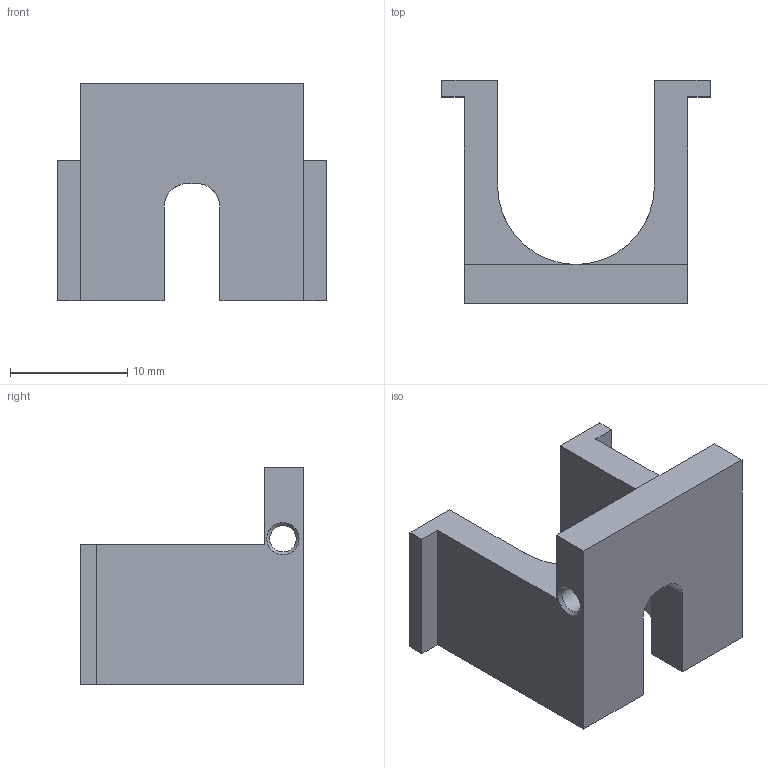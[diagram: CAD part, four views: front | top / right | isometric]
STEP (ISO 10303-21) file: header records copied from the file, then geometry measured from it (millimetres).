
FILE_DESCRIPTION(/* description */ (''),/* implementation_level */ '2;1');
FILE_NAME(/* name */ '/var/folders/q3/90_s8p4j77vgml143qxzs9nh0000gn/T/com.autodesk.mas.fusion360/Neutron/7e15a88e-5ef1-43b4-974e-b8c51cf933af.stp',/* time_stamp */ '2019-04-30T21:55:19-04:00',/* author */ (''),/* organization */ (''),/* preprocessor_version */ 'ST-DEVELOPER v18',/* originating_system */ 'Autodesk Translation Framework v8.2.0.1029',/* authorisation */ '');
FILE_SCHEMA (('AUTOMOTIVE_DESIGN { 1 0 10303 214 3 1 1 }'));
Length unit declared in the file: millimetre
Products named in the file (1): RAIL MOD 2
Bounding box: 22.86 x 19.03 x 18.56 mm (x, y, z)
Volume: 2305.6 mm3; surface area: 2059.1 mm2
Topology: 1 solids, 1 shells, 27 faces, 73 edges, 48 vertices
Faces by surface type: plane 21, cylinder 4, cone 2
Full cylindrical faces by diameter (mm): 2.25 x1
Entity records: 894 total; most frequent: CARTESIAN_POINT 167, ORIENTED_EDGE 146, DIRECTION 139, EDGE_CURVE 73, LINE 59, VECTOR 59, VERTEX_POINT 48, AXIS2_PLACEMENT_3D 40
